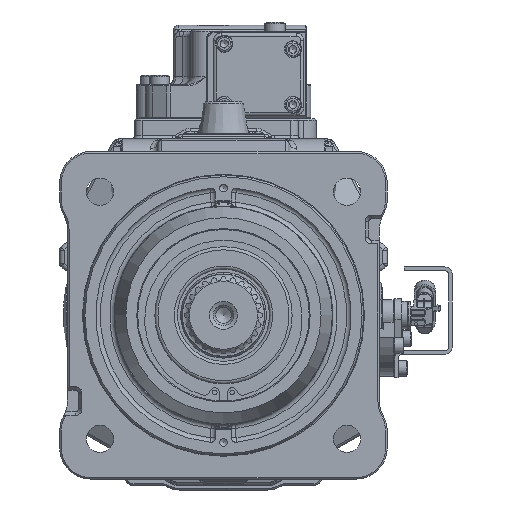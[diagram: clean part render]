
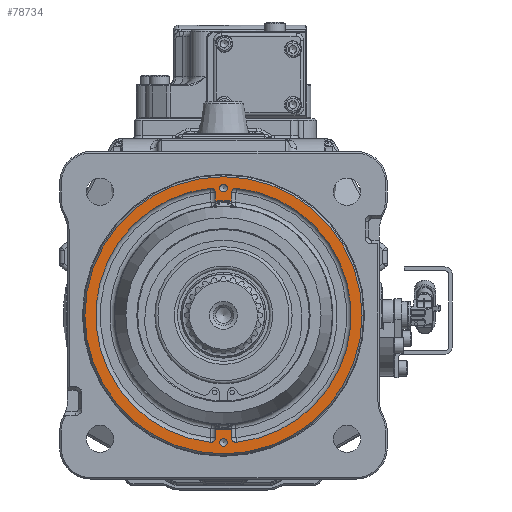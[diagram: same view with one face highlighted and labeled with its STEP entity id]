
A CAD part, front view. The second image highlights one B-rep face of the part: STEP entity #78734.
In plain terms, the highlighted planar face has unit normal (0, -1, 0).
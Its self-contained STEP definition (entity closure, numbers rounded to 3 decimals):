
#4537=FACE_BOUND('',#11144,.T.);
#4538=FACE_BOUND('',#11145,.T.);
#4539=FACE_BOUND('',#11146,.T.);
#6549=FACE_OUTER_BOUND('',#11143,.T.);
#11143=EDGE_LOOP('',(#55991));
#11144=EDGE_LOOP('',(#55992));
#11145=EDGE_LOOP('',(#55993));
#11146=EDGE_LOOP('',(#55994,#55995,#55996,#55997,#55998,#55999,#56000,#56001,
#56002,#56003,#56004,#56005));
#15511=CIRCLE('',#84043,2.862);
#15513=CIRCLE('',#84046,81.862);
#15515=CIRCLE('',#84049,2.862);
#15637=CIRCLE('',#84370,2.862);
#15639=CIRCLE('',#84373,81.862);
#15641=CIRCLE('',#84376,2.862);
#15647=CIRCLE('',#84385,88.845);
#15653=CIRCLE('',#84397,73.4);
#15654=CIRCLE('',#84399,2.459);
#15655=CIRCLE('',#84400,2.459);
#15656=CIRCLE('',#84401,73.4);
#19356=LINE('',#126491,#25308);
#19359=LINE('',#126545,#25311);
#19635=LINE('',#130446,#25587);
#19638=LINE('',#130523,#25590);
#25308=VECTOR('',#95424,5.374);
#25311=VECTOR('',#95455,5.374);
#25587=VECTOR('',#96359,5.374);
#25590=VECTOR('',#96384,5.374);
#31932=VERTEX_POINT('',#126489);
#31933=VERTEX_POINT('',#126490);
#31936=VERTEX_POINT('',#126526);
#31937=VERTEX_POINT('',#126530);
#31938=VERTEX_POINT('',#126534);
#31942=VERTEX_POINT('',#126544);
#32259=VERTEX_POINT('',#130444);
#32260=VERTEX_POINT('',#130445);
#32262=VERTEX_POINT('',#130479);
#32263=VERTEX_POINT('',#130483);
#32264=VERTEX_POINT('',#130487);
#32267=VERTEX_POINT('',#130494);
#32273=VERTEX_POINT('',#130661);
#32275=VERTEX_POINT('',#130678);
#32276=VERTEX_POINT('',#130680);
#40413=EDGE_CURVE('',#31932,#31933,#19356,.T.);
#40418=EDGE_CURVE('',#31933,#31936,#15511,.T.);
#40420=EDGE_CURVE('',#31936,#31937,#15513,.T.);
#40422=EDGE_CURVE('',#31937,#31938,#15515,.T.);
#40427=EDGE_CURVE('',#31938,#31942,#19359,.T.);
#40999=EDGE_CURVE('',#32259,#32260,#19635,.T.);
#41003=EDGE_CURVE('',#32262,#32259,#15637,.T.);
#41005=EDGE_CURVE('',#32263,#32262,#15639,.T.);
#41007=EDGE_CURVE('',#32264,#32263,#15641,.T.);
#41011=EDGE_CURVE('',#32267,#32264,#19638,.T.);
#41023=EDGE_CURVE('',#32273,#32273,#15647,.T.);
#41029=EDGE_CURVE('',#32260,#31932,#15653,.T.);
#41030=EDGE_CURVE('',#32275,#32275,#15654,.T.);
#41031=EDGE_CURVE('',#32276,#32276,#15655,.T.);
#41032=EDGE_CURVE('',#31942,#32267,#15656,.T.);
#55991=ORIENTED_EDGE('',*,*,#41023,.T.);
#55992=ORIENTED_EDGE('',*,*,#41030,.T.);
#55993=ORIENTED_EDGE('',*,*,#41031,.T.);
#55994=ORIENTED_EDGE('',*,*,#41032,.F.);
#55995=ORIENTED_EDGE('',*,*,#40427,.F.);
#55996=ORIENTED_EDGE('',*,*,#40422,.F.);
#55997=ORIENTED_EDGE('',*,*,#40420,.F.);
#55998=ORIENTED_EDGE('',*,*,#40418,.F.);
#55999=ORIENTED_EDGE('',*,*,#40413,.F.);
#56000=ORIENTED_EDGE('',*,*,#41029,.F.);
#56001=ORIENTED_EDGE('',*,*,#40999,.F.);
#56002=ORIENTED_EDGE('',*,*,#41003,.F.);
#56003=ORIENTED_EDGE('',*,*,#41005,.F.);
#56004=ORIENTED_EDGE('',*,*,#41007,.F.);
#56005=ORIENTED_EDGE('',*,*,#41011,.F.);
#72580=PLANE('',#84398);
#78734=ADVANCED_FACE('',(#6549,#4537,#4538,#4539),#72580,.F.);
#84043=AXIS2_PLACEMENT_3D('',#126527,#95432,#95433);
#84046=AXIS2_PLACEMENT_3D('',#126531,#95438,#95439);
#84049=AXIS2_PLACEMENT_3D('',#126535,#95444,#95445);
#84370=AXIS2_PLACEMENT_3D('',#130480,#96365,#96366);
#84373=AXIS2_PLACEMENT_3D('',#130484,#96371,#96372);
#84376=AXIS2_PLACEMENT_3D('',#130488,#96377,#96378);
#84385=AXIS2_PLACEMENT_3D('',#130663,#96398,#96399);
#84397=AXIS2_PLACEMENT_3D('',#130676,#96422,#96423);
#84398=AXIS2_PLACEMENT_3D('',#130677,#96424,#96425);
#84399=AXIS2_PLACEMENT_3D('',#130679,#96426,#96427);
#84400=AXIS2_PLACEMENT_3D('',#130681,#96428,#96429);
#84401=AXIS2_PLACEMENT_3D('',#130682,#96430,#96431);
#95424=DIRECTION('',(0.,0.,1.));
#95432=DIRECTION('center_axis',(0.,-1.,0.));
#95433=DIRECTION('ref_axis',(0.,0.,-1.));
#95438=DIRECTION('center_axis',(0.,-1.,0.));
#95439=DIRECTION('ref_axis',(0.,0.,-1.));
#95444=DIRECTION('center_axis',(0.,-1.,0.));
#95445=DIRECTION('ref_axis',(0.,0.,-1.));
#95455=DIRECTION('',(0.,0.,1.));
#96359=DIRECTION('',(0.,0.,-1.));
#96365=DIRECTION('center_axis',(0.,-1.,0.));
#96366=DIRECTION('ref_axis',(0.,0.,-1.));
#96371=DIRECTION('center_axis',(0.,-1.,0.));
#96372=DIRECTION('ref_axis',(0.,0.,-1.));
#96377=DIRECTION('center_axis',(0.,-1.,0.));
#96378=DIRECTION('ref_axis',(0.,0.,-1.));
#96384=DIRECTION('',(0.,0.,-1.));
#96398=DIRECTION('center_axis',(0.,-1.,0.));
#96399=DIRECTION('ref_axis',(0.,0.,1.));
#96422=DIRECTION('center_axis',(0.,-1.,0.));
#96423=DIRECTION('ref_axis',(0.,0.,1.));
#96424=DIRECTION('center_axis',(0.,1.,0.));
#96425=DIRECTION('ref_axis',(0.,0.,1.));
#96426=DIRECTION('center_axis',(0.,1.,0.));
#96427=DIRECTION('ref_axis',(1.,0.,0.));
#96428=DIRECTION('center_axis',(0.,1.,0.));
#96429=DIRECTION('ref_axis',(1.,0.,0.));
#96430=DIRECTION('center_axis',(0.,-1.,0.));
#96431=DIRECTION('ref_axis',(0.,0.,-1.));
#126489=CARTESIAN_POINT('',(-5.138,-199.1,73.22));
#126490=CARTESIAN_POINT('',(-5.138,-199.1,78.594));
#126491=CARTESIAN_POINT('',(-5.138,-199.1,73.22));
#126526=CARTESIAN_POINT('',(-8.29,-199.1,81.441));
#126527=CARTESIAN_POINT('Origin',(-8.,-199.1,78.594));
#126530=CARTESIAN_POINT('',(-8.29,-199.1,-81.441));
#126531=CARTESIAN_POINT('Origin',(0.,-199.1,0.));
#126534=CARTESIAN_POINT('',(-5.138,-199.1,-78.594));
#126535=CARTESIAN_POINT('Origin',(-8.,-199.1,-78.594));
#126544=CARTESIAN_POINT('',(-5.138,-199.1,-73.22));
#126545=CARTESIAN_POINT('',(-5.138,-199.1,-78.594));
#130444=CARTESIAN_POINT('',(5.138,-199.1,78.594));
#130445=CARTESIAN_POINT('',(5.138,-199.1,73.22));
#130446=CARTESIAN_POINT('',(5.138,-199.1,78.594));
#130479=CARTESIAN_POINT('',(8.29,-199.1,81.441));
#130480=CARTESIAN_POINT('Origin',(8.,-199.1,78.594));
#130483=CARTESIAN_POINT('',(8.29,-199.1,-81.441));
#130484=CARTESIAN_POINT('Origin',(0.,-199.1,0.));
#130487=CARTESIAN_POINT('',(5.138,-199.1,-78.594));
#130488=CARTESIAN_POINT('Origin',(8.,-199.1,-78.594));
#130494=CARTESIAN_POINT('',(5.138,-199.1,-73.22));
#130523=CARTESIAN_POINT('',(5.138,-199.1,-73.22));
#130661=CARTESIAN_POINT('',(0.,-199.1,-88.845));
#130663=CARTESIAN_POINT('Origin',(0.,-199.1,0.));
#130676=CARTESIAN_POINT('Origin',(0.,-199.1,0.));
#130677=CARTESIAN_POINT('Origin',(0.,-199.1,80.923));
#130678=CARTESIAN_POINT('',(-2.459,-199.1,-81.5));
#130679=CARTESIAN_POINT('Origin',(0.,-199.1,-81.5));
#130680=CARTESIAN_POINT('',(-2.459,-199.1,81.5));
#130681=CARTESIAN_POINT('Origin',(0.,-199.1,81.5));
#130682=CARTESIAN_POINT('Origin',(0.,-199.1,0.));
